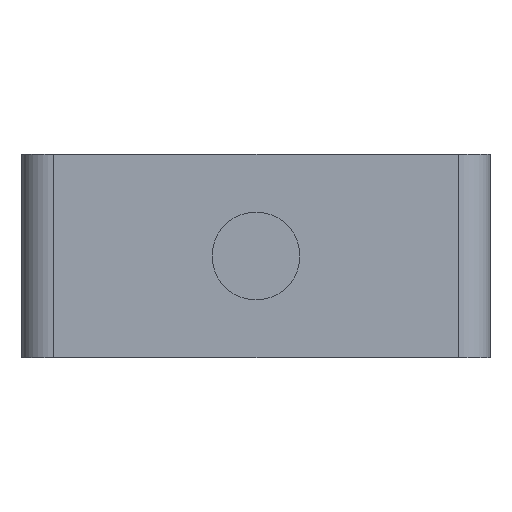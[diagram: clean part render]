
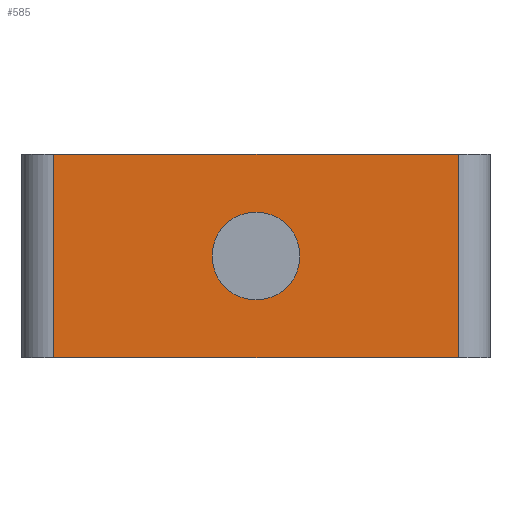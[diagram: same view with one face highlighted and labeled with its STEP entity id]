
A CAD part, left-side view. The second image highlights one B-rep face of the part: STEP entity #585.
In plain terms, the highlighted planar face has unit normal (-1, 0, 0).
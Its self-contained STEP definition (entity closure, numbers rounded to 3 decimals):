
#17=FACE_BOUND('',#103,.T.);
#40=PLANE('',#643);
#70=FACE_OUTER_BOUND('',#102,.T.);
#102=EDGE_LOOP('',(#544,#545,#546,#547));
#103=EDGE_LOOP('',(#548));
#104=LINE('',#807,#171);
#109=LINE('',#819,#176);
#132=LINE('',#867,#199);
#170=LINE('',#965,#237);
#171=VECTOR('',#650,10.);
#176=VECTOR('',#661,10.);
#199=VECTOR('',#688,10.);
#237=VECTOR('',#798,10.);
#246=CIRCLE('',#620,4.15);
#253=VERTEX_POINT('',#804);
#254=VERTEX_POINT('',#806);
#258=VERTEX_POINT('',#818);
#281=VERTEX_POINT('',#866);
#292=VERTEX_POINT('',#906);
#307=EDGE_CURVE('',#253,#254,#104,.T.);
#313=EDGE_CURVE('',#258,#254,#109,.T.);
#337=EDGE_CURVE('',#258,#281,#132,.T.);
#358=EDGE_CURVE('',#292,#292,#246,.T.);
#386=EDGE_CURVE('',#253,#281,#170,.T.);
#544=ORIENTED_EDGE('',*,*,#307,.F.);
#545=ORIENTED_EDGE('',*,*,#386,.T.);
#546=ORIENTED_EDGE('',*,*,#337,.F.);
#547=ORIENTED_EDGE('',*,*,#313,.T.);
#548=ORIENTED_EDGE('',*,*,#358,.T.);
#585=ADVANCED_FACE('',(#70,#17),#40,.F.);
#620=AXIS2_PLACEMENT_3D('',#907,#730,#731);
#643=AXIS2_PLACEMENT_3D('',#966,#799,#800);
#650=DIRECTION('',(0.,0.,1.));
#661=DIRECTION('',(0.,1.,0.));
#688=DIRECTION('',(0.,0.,-1.));
#730=DIRECTION('center_axis',(1.,0.,0.));
#731=DIRECTION('ref_axis',(0.,-1.,0.));
#798=DIRECTION('',(0.,-1.,0.));
#799=DIRECTION('center_axis',(1.,0.,0.));
#800=DIRECTION('ref_axis',(0.,1.,0.));
#804=CARTESIAN_POINT('',(4.,19.1,-9.6));
#806=CARTESIAN_POINT('',(4.,19.1,9.6));
#807=CARTESIAN_POINT('',(4.,19.1,-4.8));
#818=CARTESIAN_POINT('',(4.,-19.1,9.6));
#819=CARTESIAN_POINT('',(4.,-22.1,9.6));
#866=CARTESIAN_POINT('',(4.,-19.1,-9.6));
#867=CARTESIAN_POINT('',(4.,-19.1,4.8));
#906=CARTESIAN_POINT('',(4.,4.15,0.));
#907=CARTESIAN_POINT('Origin',(4.,0.,0.));
#965=CARTESIAN_POINT('',(4.,22.1,-9.6));
#966=CARTESIAN_POINT('Origin',(4.,0.,0.));
